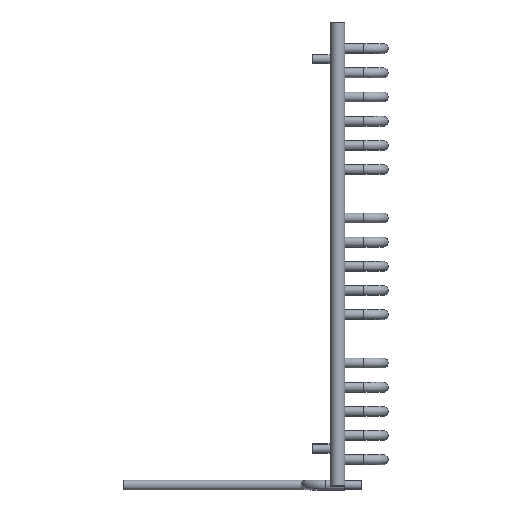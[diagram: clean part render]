
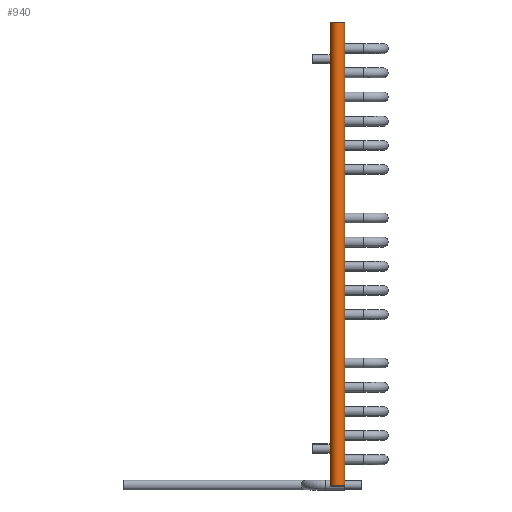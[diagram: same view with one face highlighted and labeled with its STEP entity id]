
A CAD part, left-side view. The second image highlights one B-rep face of the part: STEP entity #940.
In plain terms, the highlighted cylindrical face has radius 15 mm (diameter 30 mm), a partial arc.
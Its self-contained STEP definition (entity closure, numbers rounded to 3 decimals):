
#940 = ADVANCED_FACE( '', ( #1436 ), #1437, .T. );
#1436 = FACE_OUTER_BOUND( '', #1836, .T. );
#1437 = CYLINDRICAL_SURFACE( '', #1837, 15. );
#1836 = EDGE_LOOP( '', ( #2325, #2326, #2327, #2328, #2329, #2330, #2331, #2332, #2333, #2334, #2335, #2336, #2337, #2338, #2339, #2340, #2341, #2342, #2343, #2344 ) );
#1837 = AXIS2_PLACEMENT_3D( '', #2345, #2346, #2347 );
#2325 = ORIENTED_EDGE( '', *, *, #3148, .F. );
#2326 = ORIENTED_EDGE( '', *, *, #3149, .F. );
#2327 = ORIENTED_EDGE( '', *, *, #3150, .F. );
#2328 = ORIENTED_EDGE( '', *, *, #3151, .F. );
#2329 = ORIENTED_EDGE( '', *, *, #3152, .F. );
#2330 = ORIENTED_EDGE( '', *, *, #3153, .F. );
#2331 = ORIENTED_EDGE( '', *, *, #3154, .F. );
#2332 = ORIENTED_EDGE( '', *, *, #3155, .F. );
#2333 = ORIENTED_EDGE( '', *, *, #3156, .F. );
#2334 = ORIENTED_EDGE( '', *, *, #3157, .F. );
#2335 = ORIENTED_EDGE( '', *, *, #3158, .F. );
#2336 = ORIENTED_EDGE( '', *, *, #3159, .F. );
#2337 = ORIENTED_EDGE( '', *, *, #3160, .F. );
#2338 = ORIENTED_EDGE( '', *, *, #3161, .F. );
#2339 = ORIENTED_EDGE( '', *, *, #3162, .F. );
#2340 = ORIENTED_EDGE( '', *, *, #3163, .F. );
#2341 = ORIENTED_EDGE( '', *, *, #3164, .F. );
#2342 = ORIENTED_EDGE( '', *, *, #3165, .F. );
#2343 = ORIENTED_EDGE( '', *, *, #3166, .T. );
#2344 = ORIENTED_EDGE( '', *, *, #3145, .T. );
#2345 = CARTESIAN_POINT( '', ( 25., 15., 946. ) );
#2346 = DIRECTION( '', ( 0., 0., 1. ) );
#2347 = DIRECTION( '', ( -1., 0., 0. ) );
#3145 = EDGE_CURVE( '', #3571, #3568, #3572, .T. );
#3148 = EDGE_CURVE( '', #3576, #3568, #3577, .T. );
#3149 = EDGE_CURVE( '', #3578, #3576, #3579, .T. );
#3150 = EDGE_CURVE( '', #3580, #3578, #3581, .T. );
#3151 = EDGE_CURVE( '', #3582, #3580, #3583, .T. );
#3152 = EDGE_CURVE( '', #3584, #3582, #3585, .T. );
#3153 = EDGE_CURVE( '', #3586, #3584, #3587, .T. );
#3154 = EDGE_CURVE( '', #3588, #3586, #3589, .T. );
#3155 = EDGE_CURVE( '', #3590, #3588, #3591, .T. );
#3156 = EDGE_CURVE( '', #3592, #3590, #3593, .T. );
#3157 = EDGE_CURVE( '', #3594, #3592, #3595, .T. );
#3158 = EDGE_CURVE( '', #3596, #3594, #3597, .T. );
#3159 = EDGE_CURVE( '', #3598, #3596, #3599, .T. );
#3160 = EDGE_CURVE( '', #3600, #3598, #3601, .T. );
#3161 = EDGE_CURVE( '', #3602, #3600, #3603, .T. );
#3162 = EDGE_CURVE( '', #3604, #3602, #3605, .T. );
#3163 = EDGE_CURVE( '', #3606, #3604, #3607, .T. );
#3164 = EDGE_CURVE( '', #3608, #3606, #3609, .T. );
#3165 = EDGE_CURVE( '', #3610, #3608, #3611, .T. );
#3166 = EDGE_CURVE( '', #3610, #3571, #3612, .T. );
#3568 = VERTEX_POINT( '', #3836 );
#3571 = VERTEX_POINT( '', #3840 );
#3572 = LINE( '', #3841, #3842 );
#3576 = VERTEX_POINT( '', #3848 );
#3577 = CIRCLE( '', #3849, 15. );
#3578 = VERTEX_POINT( '', #3850 );
#3579 = LINE( '', #3851, #3852 );
#3580 = VERTEX_POINT( '', #3853 );
#3581 = LINE( '', #3854, #3855 );
#3582 = VERTEX_POINT( '', #3856 );
#3583 = LINE( '', #3857, #3858 );
#3584 = VERTEX_POINT( '', #3859 );
#3585 = LINE( '', #3860, #3861 );
#3586 = VERTEX_POINT( '', #3862 );
#3587 = LINE( '', #3863, #3864 );
#3588 = VERTEX_POINT( '', #3865 );
#3589 = LINE( '', #3866, #3867 );
#3590 = VERTEX_POINT( '', #3868 );
#3591 = LINE( '', #3869, #3870 );
#3592 = VERTEX_POINT( '', #3871 );
#3593 = LINE( '', #3872, #3873 );
#3594 = VERTEX_POINT( '', #3874 );
#3595 = LINE( '', #3875, #3876 );
#3596 = VERTEX_POINT( '', #3877 );
#3597 = LINE( '', #3878, #3879 );
#3598 = VERTEX_POINT( '', #3880 );
#3599 = LINE( '', #3881, #3882 );
#3600 = VERTEX_POINT( '', #3883 );
#3601 = LINE( '', #3884, #3885 );
#3602 = VERTEX_POINT( '', #3886 );
#3603 = LINE( '', #3887, #3888 );
#3604 = VERTEX_POINT( '', #3889 );
#3605 = LINE( '', #3890, #3891 );
#3606 = VERTEX_POINT( '', #3892 );
#3607 = LINE( '', #3893, #3894 );
#3608 = VERTEX_POINT( '', #3895 );
#3609 = LINE( '', #3896, #3897 );
#3610 = VERTEX_POINT( '', #3898 );
#3611 = LINE( '', #3899, #3900 );
#3612 = CIRCLE( '', #3901, 15. );
#3836 = CARTESIAN_POINT( '', ( 25., 0., 0. ) );
#3840 = CARTESIAN_POINT( '', ( 25., 0., 946. ) );
#3841 = CARTESIAN_POINT( '', ( 25., 0., 946. ) );
#3842 = VECTOR( '', #4167, 1000. );
#3848 = CARTESIAN_POINT( '', ( 25., 30., 0. ) );
#3849 = AXIS2_PLACEMENT_3D( '', #4170, #4171, #4172 );
#3850 = CARTESIAN_POINT( '', ( 25., 30., 51.9 ) );
#3851 = CARTESIAN_POINT( '', ( 25., 30., 946. ) );
#3852 = VECTOR( '', #4173, 1000. );
#3853 = CARTESIAN_POINT( '', ( 25., 30., 101.4 ) );
#3854 = CARTESIAN_POINT( '', ( 25., 30., 946. ) );
#3855 = VECTOR( '', #4174, 1000. );
#3856 = CARTESIAN_POINT( '', ( 25., 30., 150.9 ) );
#3857 = CARTESIAN_POINT( '', ( 25., 30., 946. ) );
#3858 = VECTOR( '', #4175, 1000. );
#3859 = CARTESIAN_POINT( '', ( 25., 30., 200.4 ) );
#3860 = CARTESIAN_POINT( '', ( 25., 30., 946. ) );
#3861 = VECTOR( '', #4176, 1000. );
#3862 = CARTESIAN_POINT( '', ( 25., 30., 249.9 ) );
#3863 = CARTESIAN_POINT( '', ( 25., 30., 946. ) );
#3864 = VECTOR( '', #4177, 1000. );
#3865 = CARTESIAN_POINT( '', ( 25., 30., 348.9 ) );
#3866 = CARTESIAN_POINT( '', ( 25., 30., 946. ) );
#3867 = VECTOR( '', #4178, 1000. );
#3868 = CARTESIAN_POINT( '', ( 25., 30., 398.4 ) );
#3869 = CARTESIAN_POINT( '', ( 25., 30., 946. ) );
#3870 = VECTOR( '', #4179, 1000. );
#3871 = CARTESIAN_POINT( '', ( 25., 30., 447.9 ) );
#3872 = CARTESIAN_POINT( '', ( 25., 30., 946. ) );
#3873 = VECTOR( '', #4180, 1000. );
#3874 = CARTESIAN_POINT( '', ( 25., 30., 497.4 ) );
#3875 = CARTESIAN_POINT( '', ( 25., 30., 946. ) );
#3876 = VECTOR( '', #4181, 1000. );
#3877 = CARTESIAN_POINT( '', ( 25., 30., 546.9 ) );
#3878 = CARTESIAN_POINT( '', ( 25., 30., 946. ) );
#3879 = VECTOR( '', #4182, 1000. );
#3880 = CARTESIAN_POINT( '', ( 25., 30., 645.9 ) );
#3881 = CARTESIAN_POINT( '', ( 25., 30., 946. ) );
#3882 = VECTOR( '', #4183, 1000. );
#3883 = CARTESIAN_POINT( '', ( 25., 30., 695.4 ) );
#3884 = CARTESIAN_POINT( '', ( 25., 30., 946. ) );
#3885 = VECTOR( '', #4184, 1000. );
#3886 = CARTESIAN_POINT( '', ( 25., 30., 744.9 ) );
#3887 = CARTESIAN_POINT( '', ( 25., 30., 946. ) );
#3888 = VECTOR( '', #4185, 1000. );
#3889 = CARTESIAN_POINT( '', ( 25., 30., 794.4 ) );
#3890 = CARTESIAN_POINT( '', ( 25., 30., 946. ) );
#3891 = VECTOR( '', #4186, 1000. );
#3892 = CARTESIAN_POINT( '', ( 25., 30., 843.9 ) );
#3893 = CARTESIAN_POINT( '', ( 25., 30., 946. ) );
#3894 = VECTOR( '', #4187, 1000. );
#3895 = CARTESIAN_POINT( '', ( 25., 30., 893.4 ) );
#3896 = CARTESIAN_POINT( '', ( 25., 30., 946. ) );
#3897 = VECTOR( '', #4188, 1000. );
#3898 = CARTESIAN_POINT( '', ( 25., 30., 946. ) );
#3899 = CARTESIAN_POINT( '', ( 25., 30., 946. ) );
#3900 = VECTOR( '', #4189, 1000. );
#3901 = AXIS2_PLACEMENT_3D( '', #4190, #4191, #4192 );
#4167 = DIRECTION( '', ( 0., 0., -1. ) );
#4170 = CARTESIAN_POINT( '', ( 25., 15., 0. ) );
#4171 = DIRECTION( '', ( 0., 0., -1. ) );
#4172 = DIRECTION( '', ( -1., 0., 0. ) );
#4173 = DIRECTION( '', ( 0., 0., -1. ) );
#4174 = DIRECTION( '', ( 0., 0., -1. ) );
#4175 = DIRECTION( '', ( 0., 0., -1. ) );
#4176 = DIRECTION( '', ( 0., 0., -1. ) );
#4177 = DIRECTION( '', ( 0., 0., -1. ) );
#4178 = DIRECTION( '', ( 0., 0., -1. ) );
#4179 = DIRECTION( '', ( 0., 0., -1. ) );
#4180 = DIRECTION( '', ( 0., 0., -1. ) );
#4181 = DIRECTION( '', ( 0., 0., -1. ) );
#4182 = DIRECTION( '', ( 0., 0., -1. ) );
#4183 = DIRECTION( '', ( 0., 0., -1. ) );
#4184 = DIRECTION( '', ( 0., 0., -1. ) );
#4185 = DIRECTION( '', ( 0., 0., -1. ) );
#4186 = DIRECTION( '', ( 0., 0., -1. ) );
#4187 = DIRECTION( '', ( 0., 0., -1. ) );
#4188 = DIRECTION( '', ( 0., 0., -1. ) );
#4189 = DIRECTION( '', ( 0., 0., -1. ) );
#4190 = CARTESIAN_POINT( '', ( 25., 15., 946. ) );
#4191 = DIRECTION( '', ( 0., 0., -1. ) );
#4192 = DIRECTION( '', ( -1., 0., 0. ) );
